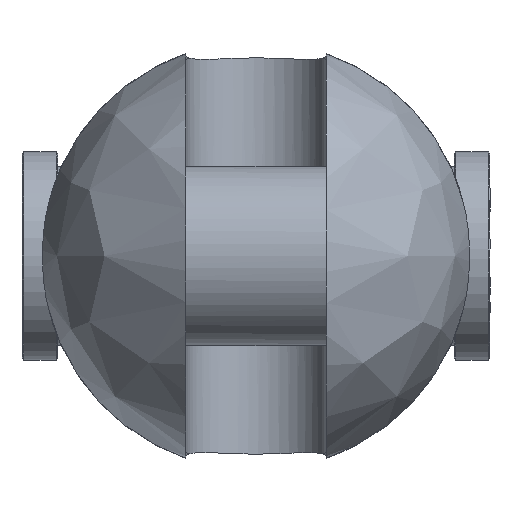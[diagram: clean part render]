
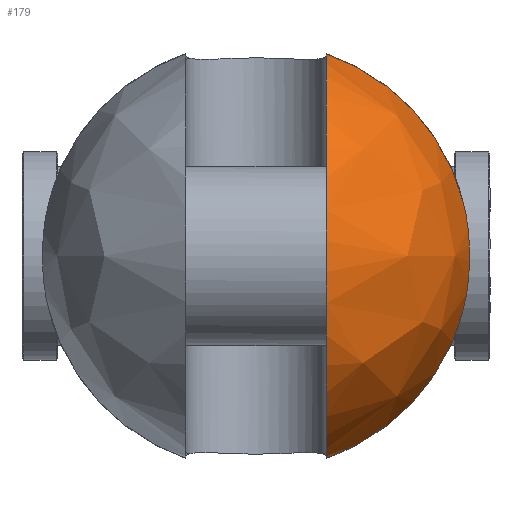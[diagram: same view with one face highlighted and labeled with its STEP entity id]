
A CAD part, left-side view. The second image highlights one B-rep face of the part: STEP entity #179.
In plain terms, the highlighted free-form (B-spline) face has degree [2, 2] with [9, 5] control points.
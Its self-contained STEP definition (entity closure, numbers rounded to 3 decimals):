
#179=ADVANCED_FACE('',(#320),#2417,.T.);
#320=FACE_OUTER_BOUND('',#481,.T.);
#481=EDGE_LOOP('',(#1194,#1195,#1196,#1197));
#1194=ORIENTED_EDGE('',*,*,#1575,.T.);
#1195=ORIENTED_EDGE('',*,*,#1603,.F.);
#1196=ORIENTED_EDGE('',*,*,#1615,.T.);
#1197=ORIENTED_EDGE('',*,*,#1595,.F.);
#1575=EDGE_CURVE('',#2249,#2248,#1983,.T.);
#1595=EDGE_CURVE('',#2249,#2261,#1993,.T.);
#1603=EDGE_CURVE('',#2268,#2248,#1994,.T.);
#1615=EDGE_CURVE('',#2268,#2261,#1789,.T.);
#1789=B_SPLINE_CURVE_WITH_KNOTS('',3,(#6139,#6140,#6141,#6142,#6143,#6144,
#6145,#6146,#6147,#6148,#6149,#6150,#6151,#6152),.UNSPECIFIED.,.F.,.F.,
(4,2,2,2,2,2,4),(0.,3.421,9.625,15.83,22.034,
28.238,31.66),.UNSPECIFIED.);
#1983=(
BOUNDED_CURVE()
B_SPLINE_CURVE(2,(#5883,#5884,#5885,#5886,#5887),.UNSPECIFIED.,.F.,.F.)
B_SPLINE_CURVE_WITH_KNOTS((3,2,3),(-176.601,-88.301,
0.),.UNSPECIFIED.)
CURVE()
GEOMETRIC_REPRESENTATION_ITEM()
RATIONAL_B_SPLINE_CURVE((1.,0.707,1.,0.707,1.))
REPRESENTATION_ITEM('')
);
#1993=(
BOUNDED_CURVE()
B_SPLINE_CURVE(2,(#6009,#6010,#6011),.UNSPECIFIED.,.F.,.F.)
B_SPLINE_CURVE_WITH_KNOTS((3,3),(0.,58.466),.UNSPECIFIED.)
CURVE()
GEOMETRIC_REPRESENTATION_ITEM()
RATIONAL_B_SPLINE_CURVE((1.,0.882,1.))
REPRESENTATION_ITEM('')
);
#1994=(
BOUNDED_CURVE()
B_SPLINE_CURVE(2,(#6066,#6067,#6068),.UNSPECIFIED.,.F.,.F.)
B_SPLINE_CURVE_WITH_KNOTS((3,3),(0.,58.466),.UNSPECIFIED.)
CURVE()
GEOMETRIC_REPRESENTATION_ITEM()
RATIONAL_B_SPLINE_CURVE((1.,0.882,1.))
REPRESENTATION_ITEM('')
);
#2248=VERTEX_POINT('',#5767);
#2249=VERTEX_POINT('',#5768);
#2261=VERTEX_POINT('',#5780);
#2268=VERTEX_POINT('',#5787);
#2417=(
BOUNDED_SURFACE()
B_SPLINE_SURFACE(2,2,((#5481,#5482,#5483,#5484,#5485),(#5486,#5487,#5488,
#5489,#5490),(#5491,#5492,#5493,#5494,#5495),(#5496,#5497,#5498,#5499,#5500),
(#5501,#5502,#5503,#5504,#5505),(#5506,#5507,#5508,#5509,#5510),(#5511,
#5512,#5513,#5514,#5515),(#5516,#5517,#5518,#5519,#5520),(#5521,#5522,#5523,
#5524,#5525)),.UNSPECIFIED.,.T.,.F.,.F.)
B_SPLINE_SURFACE_WITH_KNOTS((3,2,2,2,3),(3,2,3),(0.,93.462,186.925,
280.387,373.85),(0.,93.462,186.925),
 .UNSPECIFIED.)
GEOMETRIC_REPRESENTATION_ITEM()
RATIONAL_B_SPLINE_SURFACE(((1.,0.707,1.,0.707,1.),
(0.707,0.5,0.707,0.5,0.707),(1.,0.707,
1.,0.707,1.),(0.707,0.5,0.707,0.5,0.707),
(1.,0.707,1.,0.707,1.),(0.707,0.5,0.707,
0.5,0.707),(1.,0.707,1.,0.707,1.),(0.707,
0.5,0.707,0.5,0.707),(1.,0.707,1.,0.707,
1.)))
REPRESENTATION_ITEM('')
SURFACE()
);
#5481=CARTESIAN_POINT('',(-85.5,0.,0.));
#5482=CARTESIAN_POINT('',(-85.5,59.5,0.));
#5483=CARTESIAN_POINT('',(-26.,59.5,0.));
#5484=CARTESIAN_POINT('',(33.5,59.5,0.));
#5485=CARTESIAN_POINT('',(33.5,0.,0.));
#5486=CARTESIAN_POINT('',(-85.5,0.,0.));
#5487=CARTESIAN_POINT('',(-85.5,59.5,59.5));
#5488=CARTESIAN_POINT('',(-26.,59.5,59.5));
#5489=CARTESIAN_POINT('',(33.5,59.5,59.5));
#5490=CARTESIAN_POINT('',(33.5,0.,0.));
#5491=CARTESIAN_POINT('',(-85.5,0.,0.));
#5492=CARTESIAN_POINT('',(-85.5,0.,59.5));
#5493=CARTESIAN_POINT('',(-26.,0.,59.5));
#5494=CARTESIAN_POINT('',(33.5,0.,59.5));
#5495=CARTESIAN_POINT('',(33.5,0.,0.));
#5496=CARTESIAN_POINT('',(-85.5,0.,0.));
#5497=CARTESIAN_POINT('',(-85.5,-59.5,59.5));
#5498=CARTESIAN_POINT('',(-26.,-59.5,59.5));
#5499=CARTESIAN_POINT('',(33.5,-59.5,59.5));
#5500=CARTESIAN_POINT('',(33.5,0.,0.));
#5501=CARTESIAN_POINT('',(-85.5,0.,0.));
#5502=CARTESIAN_POINT('',(-85.5,-59.5,0.));
#5503=CARTESIAN_POINT('',(-26.,-59.5,0.));
#5504=CARTESIAN_POINT('',(33.5,-59.5,0.));
#5505=CARTESIAN_POINT('',(33.5,0.,0.));
#5506=CARTESIAN_POINT('',(-85.5,0.,0.));
#5507=CARTESIAN_POINT('',(-85.5,-59.5,-59.5));
#5508=CARTESIAN_POINT('',(-26.,-59.5,-59.5));
#5509=CARTESIAN_POINT('',(33.5,-59.5,-59.5));
#5510=CARTESIAN_POINT('',(33.5,0.,0.));
#5511=CARTESIAN_POINT('',(-85.5,0.,0.));
#5512=CARTESIAN_POINT('',(-85.5,0.,-59.5));
#5513=CARTESIAN_POINT('',(-26.,0.,-59.5));
#5514=CARTESIAN_POINT('',(33.5,0.,-59.5));
#5515=CARTESIAN_POINT('',(33.5,0.,0.));
#5516=CARTESIAN_POINT('',(-85.5,0.,0.));
#5517=CARTESIAN_POINT('',(-85.5,59.5,-59.5));
#5518=CARTESIAN_POINT('',(-26.,59.5,-59.5));
#5519=CARTESIAN_POINT('',(33.5,59.5,-59.5));
#5520=CARTESIAN_POINT('',(33.5,0.,0.));
#5521=CARTESIAN_POINT('',(-85.5,0.,0.));
#5522=CARTESIAN_POINT('',(-85.5,59.5,0.));
#5523=CARTESIAN_POINT('',(-26.,59.5,0.));
#5524=CARTESIAN_POINT('',(33.5,59.5,0.));
#5525=CARTESIAN_POINT('',(33.5,0.,0.));
#5767=CARTESIAN_POINT('',(-26.,-19.5,-56.214));
#5768=CARTESIAN_POINT('',(-26.,-19.5,56.214));
#5780=CARTESIAN_POINT('',(-26.,-57.587,14.967));
#5787=CARTESIAN_POINT('',(-26.,-57.587,-14.967));
#5883=CARTESIAN_POINT('',(-26.,-19.5,56.214));
#5884=CARTESIAN_POINT('',(-82.214,-19.5,56.214));
#5885=CARTESIAN_POINT('',(-82.214,-19.5,0.));
#5886=CARTESIAN_POINT('',(-82.214,-19.5,-56.214));
#5887=CARTESIAN_POINT('',(-26.,-19.5,-56.214));
#6009=CARTESIAN_POINT('',(-26.,-19.5,56.214));
#6010=CARTESIAN_POINT('',(-26.,-49.579,45.78));
#6011=CARTESIAN_POINT('',(-26.,-57.587,14.967));
#6066=CARTESIAN_POINT('',(-26.,-57.587,-14.967));
#6067=CARTESIAN_POINT('',(-26.,-49.579,-45.78));
#6068=CARTESIAN_POINT('',(-26.,-19.5,-56.214));
#6139=CARTESIAN_POINT('',(-26.,-57.587,-14.967));
#6140=CARTESIAN_POINT('',(-26.561,-57.84,-13.992));
#6141=CARTESIAN_POINT('',(-27.071,-58.069,-12.979));
#6142=CARTESIAN_POINT('',(-28.343,-58.636,-10.046));
#6143=CARTESIAN_POINT('',(-28.971,-58.913,-8.056));
#6144=CARTESIAN_POINT('',(-29.8,-59.278,-4.025));
#6145=CARTESIAN_POINT('',(-30.,-59.365,-1.984));
#6146=CARTESIAN_POINT('',(-30.,-59.365,1.984));
#6147=CARTESIAN_POINT('',(-29.8,-59.278,4.025));
#6148=CARTESIAN_POINT('',(-28.971,-58.913,8.056));
#6149=CARTESIAN_POINT('',(-28.343,-58.636,10.046));
#6150=CARTESIAN_POINT('',(-27.071,-58.069,12.979));
#6151=CARTESIAN_POINT('',(-26.561,-57.84,13.992));
#6152=CARTESIAN_POINT('',(-26.,-57.587,14.967));
